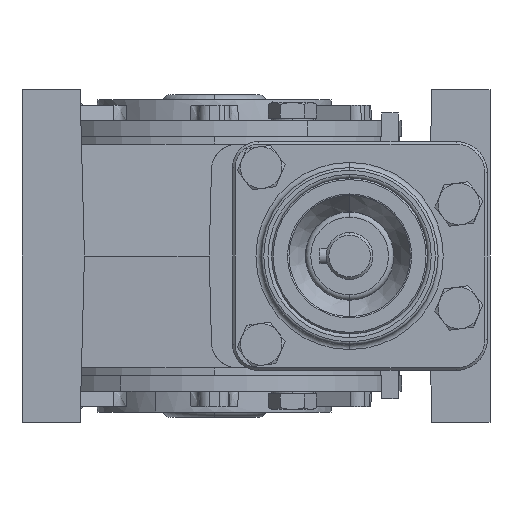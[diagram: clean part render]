
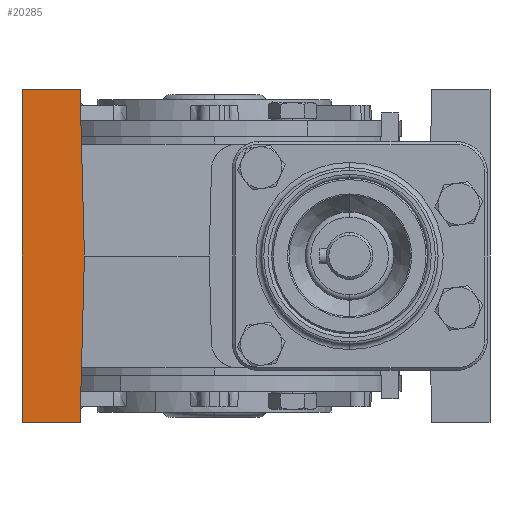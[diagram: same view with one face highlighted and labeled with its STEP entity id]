
A CAD part, left-side view. The second image highlights one B-rep face of the part: STEP entity #20285.
In plain terms, the highlighted planar face has unit normal (-1, 0, 0).
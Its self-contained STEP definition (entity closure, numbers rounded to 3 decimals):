
#214 = LINE ( 'NONE', #15405, #20229 ) ;
#306 = EDGE_LOOP ( 'NONE', ( #13054, #18972, #1640, #13711, #13107 ) ) ;
#1001 = CARTESIAN_POINT ( 'NONE',  ( -37., 37., 32. ) ) ;
#1496 = CARTESIAN_POINT ( 'NONE',  ( -37., 37., 32. ) ) ;
#1625 = EDGE_CURVE ( 'NONE', #15593, #17604, #18292, .T. ) ;
#1640 = ORIENTED_EDGE ( 'NONE', *, *, #3576, .F. ) ;
#2327 = VERTEX_POINT ( 'NONE', #12146 ) ;
#2481 = CARTESIAN_POINT ( 'NONE',  ( -37., 37., -32. ) ) ;
#3119 = EDGE_CURVE ( 'NONE', #2327, #4496, #214, .T. ) ;
#3576 = EDGE_CURVE ( 'NONE', #6393, #2327, #17485, .T. ) ;
#3818 = DIRECTION ( 'NONE',  ( 0., 0., -1. ) ) ;
#4133 = CARTESIAN_POINT ( 'NONE',  ( -37., 37., -32. ) ) ;
#4496 = VERTEX_POINT ( 'NONE', #9085 ) ;
#4505 = VECTOR ( 'NONE', #3818, 1000. ) ;
#4733 = VECTOR ( 'NONE', #17869, 1000. ) ;
#5724 = LINE ( 'NONE', #16280, #4733 ) ;
#6393 = VERTEX_POINT ( 'NONE', #1001 ) ;
#7842 = DIRECTION ( 'NONE',  ( 1., 0., 0. ) ) ;
#9085 = CARTESIAN_POINT ( 'NONE',  ( -37., 25., 0. ) ) ;
#10163 = CARTESIAN_POINT ( 'NONE',  ( -37., 37., 32. ) ) ;
#12146 = CARTESIAN_POINT ( 'NONE',  ( -37., 25.838, 32. ) ) ;
#12456 = EDGE_CURVE ( 'NONE', #6393, #15593, #17599, .T. ) ;
#13054 = ORIENTED_EDGE ( 'NONE', *, *, #13209, .T. ) ;
#13107 = ORIENTED_EDGE ( 'NONE', *, *, #1625, .T. ) ;
#13209 = EDGE_CURVE ( 'NONE', #17604, #4496, #5724, .T. ) ;
#13269 = VECTOR ( 'NONE', #16495, 1000. ) ;
#13711 = ORIENTED_EDGE ( 'NONE', *, *, #12456, .T. ) ;
#13814 = DIRECTION ( 'NONE',  ( 0., -0.026, -1. ) ) ;
#14087 = VECTOR ( 'NONE', #19825, 1000. ) ;
#14107 = PLANE ( 'NONE',  #15278 ) ;
#15278 = AXIS2_PLACEMENT_3D ( 'NONE', #1496, #7842, #18882 ) ;
#15405 = CARTESIAN_POINT ( 'NONE',  ( -37., 25., 0. ) ) ;
#15593 = VERTEX_POINT ( 'NONE', #4133 ) ;
#16280 = CARTESIAN_POINT ( 'NONE',  ( -37., 25., 0. ) ) ;
#16495 = DIRECTION ( 'NONE',  ( 0., -1., 0. ) ) ;
#17485 = LINE ( 'NONE', #10163, #13269 ) ;
#17599 = LINE ( 'NONE', #19584, #4505 ) ;
#17604 = VERTEX_POINT ( 'NONE', #18273 ) ;
#17869 = DIRECTION ( 'NONE',  ( 0., -0.026, 1. ) ) ;
#18273 = CARTESIAN_POINT ( 'NONE',  ( -37., 25.838, -32. ) ) ;
#18292 = LINE ( 'NONE', #2481, #14087 ) ;
#18803 = FACE_OUTER_BOUND ( 'NONE', #306, .T. ) ;
#18882 = DIRECTION ( 'NONE',  ( 0., 1., 0. ) ) ;
#18972 = ORIENTED_EDGE ( 'NONE', *, *, #3119, .F. ) ;
#19584 = CARTESIAN_POINT ( 'NONE',  ( -37., 37., 32. ) ) ;
#19825 = DIRECTION ( 'NONE',  ( 0., -1., 0. ) ) ;
#20229 = VECTOR ( 'NONE', #13814, 1000. ) ;
#20285 = ADVANCED_FACE ( 'NONE', ( #18803 ), #14107, .F. ) ;
